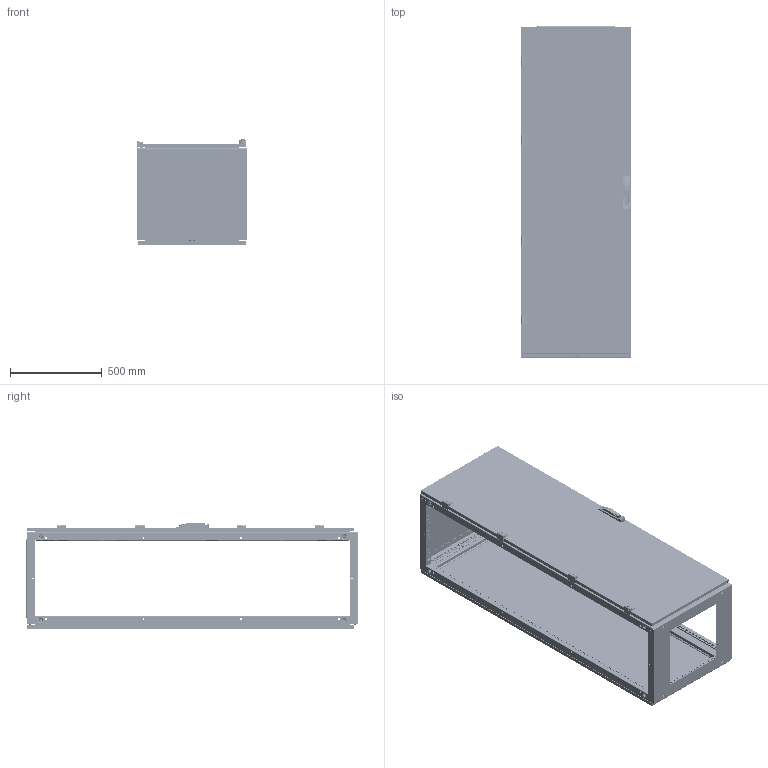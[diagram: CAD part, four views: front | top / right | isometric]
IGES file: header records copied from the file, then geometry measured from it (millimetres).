
Start section: SolidWorks IGES file using analytic representation for surfaces
Global section: file name: U:\14_RD\05_Technical_office\04_Office\Hrdinova\3D modely - IGES\Distri\QA180605.IGS; native system: SolidWorks 2011; preprocessor: SolidWorks 2011; author: adhrja3; date: 170612.074845; units: millimetre
Bounding box: 600 x 1804.5 x 576 mm (x, y, z)
Surface area: 9716259.6 mm2 (no closed solid volume)
Topology: 0 solids, 0 shells, 6170 faces, 102525 edges, 102345 vertices
Faces by surface type: bspline 3478, revolution 2692
